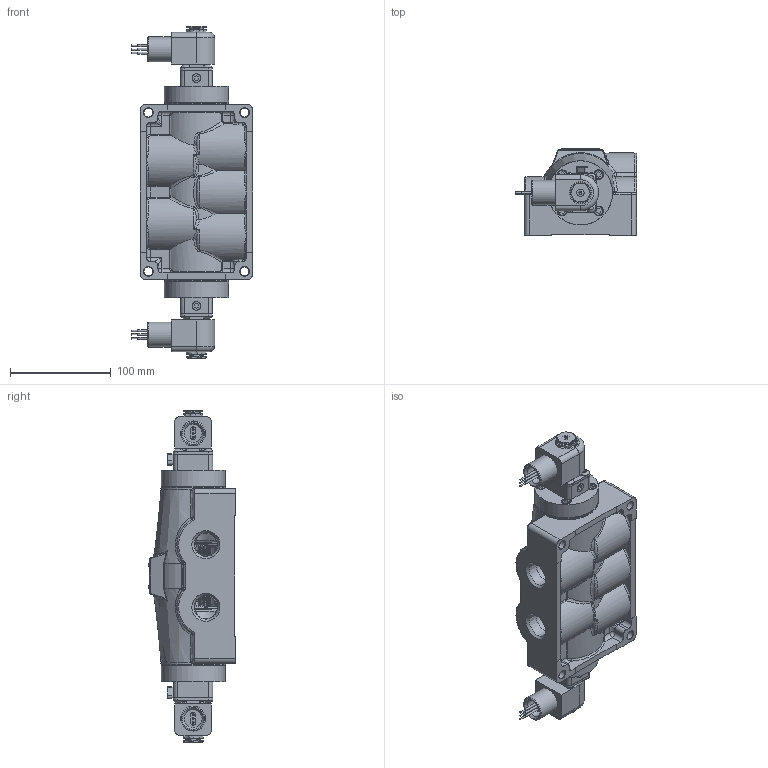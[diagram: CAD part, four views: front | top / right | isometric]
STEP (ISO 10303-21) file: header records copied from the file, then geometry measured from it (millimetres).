
FILE_DESCRIPTION(/* description */ (''),/* implementation_level */ '2;1');
FILE_NAME(/* name */ 'ESY6XOCZ.stp',/* time_stamp */ '2026-09-10T10:35:33-04:00',/* author */ ('rmckenna'),/* organization */ (''),/* preprocessor_version */ 'ST-DEVELOPER v20.2',/* originating_system */ 'Autodesk Inventor 2027',/* authorisation */ '');
FILE_SCHEMA (('AUTOMOTIVE_DESIGN { 1 0 10303 214 3 1 1 }'));
Products named in the file (1): Part89
Bounding box: 119.93 x 86.28 x 328.74 mm (x, y, z)
Volume: 1171537.6 mm3; surface area: 237567.9 mm2
Topology: 2 solids, 41 shells, 3172 faces, 7702 edges, 4761 vertices
Faces by surface type: plane 1170, cylinder 951, cone 371, bspline 344, torus 244, sphere 92
Full cylindrical faces by diameter (mm): 1.168 x20, 1.3 x2, 1.397 x2, 1.5 x2, 1.524 x6, 2.032 x22, 2.07 x2, 2.261 x2, 2.35 x8, 2.388 x2, 2.5 x2, 2.778 x2, 2.8 x2, 3 x8, 3.048 x6, 3.175 x4, 3.4 x2, 3.683 x10, 3.962 x2, 4.191 x4, 4.826 x8, 4.978 x9, 5.15 x8, 5.156 x8, 5.5 x2, 5.556 x2, 6.35 x8, 6.65 x2, 6.747 x8, 7.144 x8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
Entity records: 121491 total; most frequent: CARTESIAN_POINT 45324, ORIENTED_EDGE 15238, DIRECTION 14969, EDGE_CURVE 7619, AXIS2_PLACEMENT_3D 5831, VERTEX_POINT 4759, EDGE_LOOP 3544, LINE 3307
